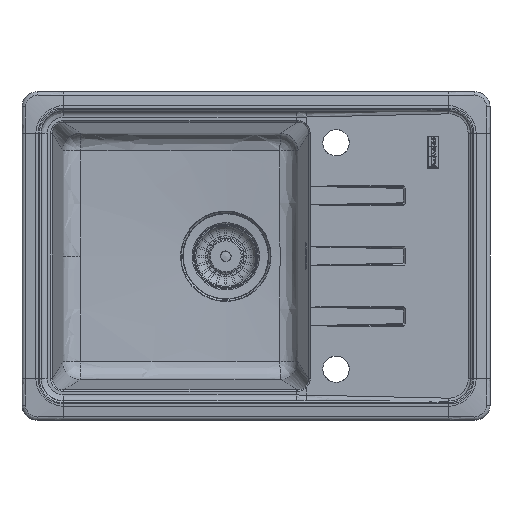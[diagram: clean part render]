
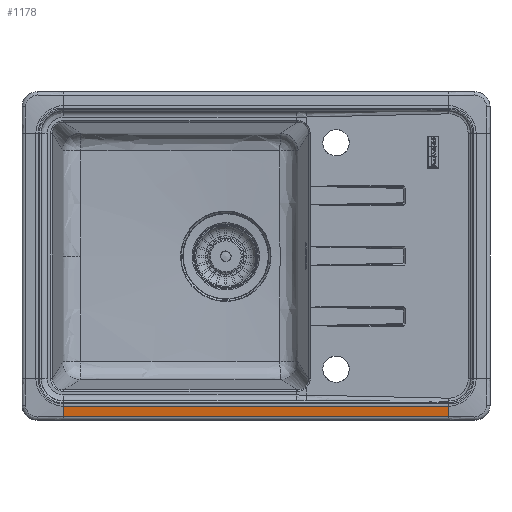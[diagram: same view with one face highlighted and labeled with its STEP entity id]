
A CAD part, top view. The second image highlights one B-rep face of the part: STEP entity #1178.
In plain terms, the highlighted planar face has unit normal (0, -0.102, 0.995).
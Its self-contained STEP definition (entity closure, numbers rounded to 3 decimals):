
#1178=ADVANCED_FACE('',(#2752),#25841,.T.);
#2752=FACE_OUTER_BOUND('',#4376,.T.);
#4376=EDGE_LOOP('',(#9983,#9984,#9985,#9986));
#9983=ORIENTED_EDGE('',*,*,#15512,.F.);
#9984=ORIENTED_EDGE('',*,*,#15561,.T.);
#9985=ORIENTED_EDGE('',*,*,#15562,.T.);
#9986=ORIENTED_EDGE('',*,*,#15558,.F.);
#15512=EDGE_CURVE('',#23910,#23909,#19925,.T.);
#15558=EDGE_CURVE('',#23909,#23936,#19947,.T.);
#15561=EDGE_CURVE('',#23910,#23938,#19950,.T.);
#15562=EDGE_CURVE('',#23938,#23936,#19951,.T.);
#19925=B_SPLINE_CURVE_WITH_KNOTS('',1,(#80356,#80357),.UNSPECIFIED.,.F.,
 .F.,(2,2),(-510.11,0.),.UNSPECIFIED.);
#19947=B_SPLINE_CURVE_WITH_KNOTS('',1,(#81276,#81277),.UNSPECIFIED.,.F.,
 .F.,(2,2),(0.,13.946),.UNSPECIFIED.);
#19950=B_SPLINE_CURVE_WITH_KNOTS('',1,(#81310,#81311),.UNSPECIFIED.,.F.,
 .F.,(2,2),(-13.946,0.),.UNSPECIFIED.);
#19951=B_SPLINE_CURVE_WITH_KNOTS('',1,(#81312,#81313),.UNSPECIFIED.,.F.,
 .F.,(2,2),(-510.011,0.),.UNSPECIFIED.);
#23909=VERTEX_POINT('',#71103);
#23910=VERTEX_POINT('',#71104);
#23936=VERTEX_POINT('',#71130);
#23938=VERTEX_POINT('',#71132);
#25841=PLANE('',#27888);
#27888=AXIS2_PLACEMENT_3D('',#59368,#31098,$);
#31098=DIRECTION('',(0.,-0.102,0.995));
#59368=CARTESIAN_POINT('',(395.473,-68.55,137.155));
#71103=CARTESIAN_POINT('',(-166.253,-83.928,135.584));
#71104=CARTESIAN_POINT('',(343.857,-83.928,135.584));
#71130=CARTESIAN_POINT('',(-166.204,-70.054,137.001));
#71132=CARTESIAN_POINT('',(343.807,-70.054,137.001));
#80356=CARTESIAN_POINT('',(343.857,-83.928,135.584));
#80357=CARTESIAN_POINT('',(-166.253,-83.928,135.584));
#81276=CARTESIAN_POINT('',(-166.253,-83.928,135.584));
#81277=CARTESIAN_POINT('',(-166.204,-70.054,137.001));
#81310=CARTESIAN_POINT('',(343.857,-83.928,135.584));
#81311=CARTESIAN_POINT('',(343.807,-70.054,137.001));
#81312=CARTESIAN_POINT('',(343.807,-70.054,137.001));
#81313=CARTESIAN_POINT('',(-166.204,-70.054,137.001));
